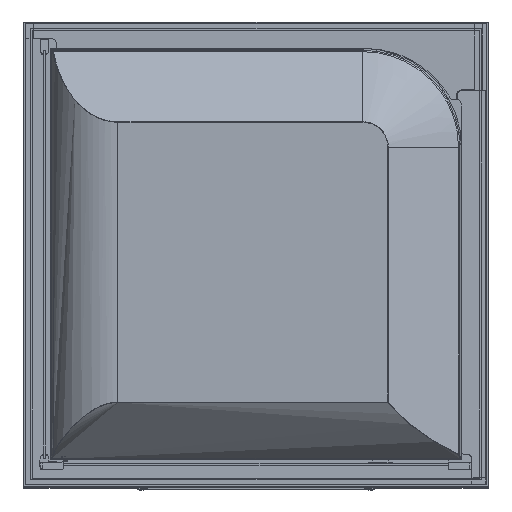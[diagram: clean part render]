
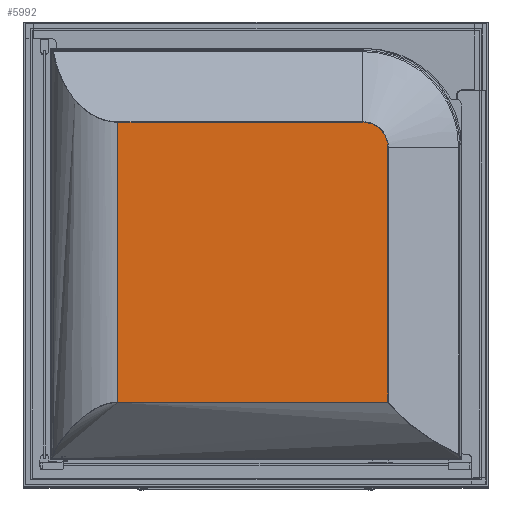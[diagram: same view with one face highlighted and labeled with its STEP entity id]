
A CAD part, top view. The second image highlights one B-rep face of the part: STEP entity #5992.
In plain terms, the highlighted planar face has unit normal (0, 0, 1).
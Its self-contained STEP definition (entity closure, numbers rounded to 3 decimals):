
#5929=CARTESIAN_POINT('',(-194.966,-740.304,2170.));
#5930=DIRECTION('',(0.0,0.0,-1.0));
#5931=DIRECTION('',(-1.0,0.0,0.0));
#5932=AXIS2_PLACEMENT_3D('',#5929,#5930,#5931);
#5933=PLANE('',#5932);
#5934=CARTESIAN_POINT('',(-720.775,-194.322,2170.));
#5935=VERTEX_POINT('',#5934);
#5936=CARTESIAN_POINT('',(-244.002,-194.322,2170.));
#5937=VERTEX_POINT('',#5936);
#5938=CARTESIAN_POINT('',(-720.775,-194.322,2170.));
#5939=DIRECTION('',(1.0,0.0,0.0));
#5940=VECTOR('',#5939,476.773);
#5941=LINE('',#5938,#5940);
#5942=EDGE_CURVE('',#5935,#5937,#5941,.T.);
#5943=ORIENTED_EDGE('',*,*,#5942,.F.);
#5944=CARTESIAN_POINT('',(-720.775,-740.805,2170.));
#5945=VERTEX_POINT('',#5944);
#5946=CARTESIAN_POINT('',(-720.775,-740.805,2170.));
#5947=DIRECTION('',(0.0,1.0,0.0));
#5948=VECTOR('',#5947,546.483);
#5949=LINE('',#5946,#5948);
#5950=EDGE_CURVE('',#5945,#5935,#5949,.T.);
#5951=ORIENTED_EDGE('',*,*,#5950,.F.);
#5952=CARTESIAN_POINT('',(-194.32,-740.805,2170.));
#5953=VERTEX_POINT('',#5952);
#5954=CARTESIAN_POINT('',(-720.775,-740.805,2170.));
#5955=DIRECTION('',(1.0,0.0,0.0));
#5956=VECTOR('',#5955,526.455);
#5957=LINE('',#5954,#5956);
#5958=EDGE_CURVE('',#5945,#5953,#5957,.T.);
#5959=ORIENTED_EDGE('',*,*,#5958,.T.);
#5960=CARTESIAN_POINT('',(-194.32,-244.004,2170.));
#5961=VERTEX_POINT('',#5960);
#5962=CARTESIAN_POINT('',(-194.32,-244.004,2170.));
#5963=DIRECTION('',(0.0,-1.0,0.0));
#5964=VECTOR('',#5963,496.801);
#5965=LINE('',#5962,#5964);
#5966=EDGE_CURVE('',#5961,#5953,#5965,.T.);
#5967=ORIENTED_EDGE('',*,*,#5966,.F.);
#5968=CARTESIAN_POINT('',(-244.002,-194.322,2170.));
#5969=CARTESIAN_POINT('',(-242.89,-194.322,2170.));
#5970=CARTESIAN_POINT('',(-239.83,-194.425,2170.));
#5971=CARTESIAN_POINT('',(-234.558,-195.092,2170.));
#5972=CARTESIAN_POINT('',(-228.833,-196.57,2170.));
#5973=CARTESIAN_POINT('',(-223.553,-198.629,2170.));
#5974=CARTESIAN_POINT('',(-218.991,-200.975,2170.));
#5975=CARTESIAN_POINT('',(-214.76,-203.735,2170.));
#5976=CARTESIAN_POINT('',(-210.828,-206.907,2170.));
#5977=CARTESIAN_POINT('',(-207.235,-210.459,2170.));
#5978=CARTESIAN_POINT('',(-204.026,-214.363,2170.));
#5979=CARTESIAN_POINT('',(-201.227,-218.569,2170.));
#5980=CARTESIAN_POINT('',(-198.865,-223.036,2170.));
#5981=CARTESIAN_POINT('',(-196.946,-227.793,2170.));
#5982=CARTESIAN_POINT('',(-195.549,-232.648,2170.));
#5983=CARTESIAN_POINT('',(-194.718,-237.228,2170.));
#5984=CARTESIAN_POINT('',(-194.375,-241.002,2170.));
#5985=CARTESIAN_POINT('',(-194.32,-243.159,2170.));
#5986=CARTESIAN_POINT('',(-194.32,-244.004,2170.));
#5987=B_SPLINE_CURVE_WITH_KNOTS('',3,(#5968,#5969,#5970,#5971,#5972,#5973,#5974,#5975,#5976,#5977,#5978,#5979,#5980,#5981,#5982,#5983,#5984,#5985,#5986),.UNSPECIFIED.,.F.,.U.,(4,1,1,1,1,1,1,1,1,1,1,1,1,1,1,1,4),(0.0,3.338,9.179,15.913,21.036,26.159,31.282,36.173,41.296,46.42,51.311,56.435,61.558,66.681,71.571,75.504,78.04),.UNSPECIFIED.);
#5988=EDGE_CURVE('',#5937,#5961,#5987,.T.);
#5989=ORIENTED_EDGE('',*,*,#5988,.F.);
#5990=EDGE_LOOP('',(#5943,#5951,#5959,#5967,#5989));
#5991=FACE_OUTER_BOUND('',#5990,.T.);
#5992=ADVANCED_FACE('',(#5991),#5933,.F.);
